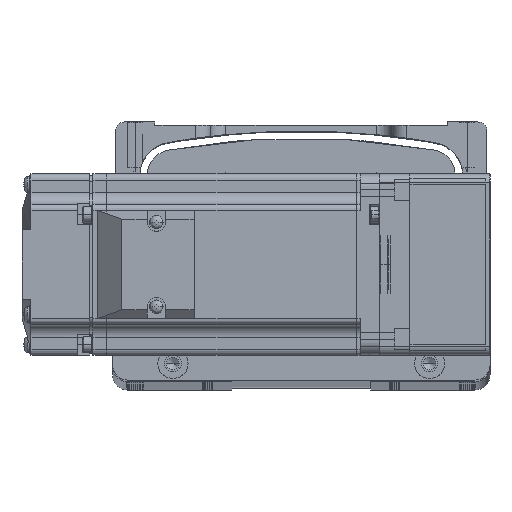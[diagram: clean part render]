
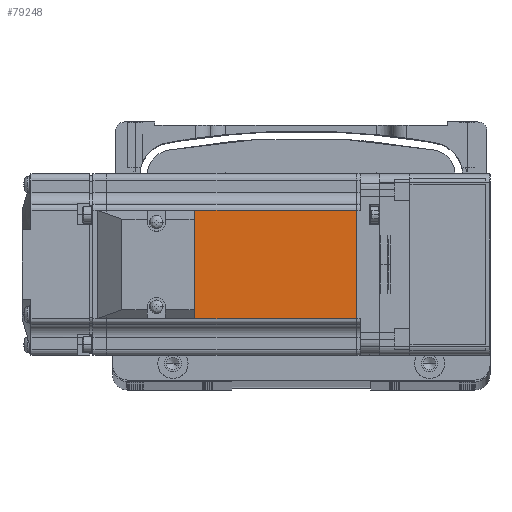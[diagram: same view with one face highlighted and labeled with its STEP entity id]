
A CAD part, top view. The second image highlights one B-rep face of the part: STEP entity #79248.
In plain terms, the highlighted planar face has unit normal (0, 0, 1) as drawn and (0, 1, 0) by its records, which use the part's own axes.
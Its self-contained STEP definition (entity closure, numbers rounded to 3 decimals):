
#5384 = FACE_OUTER_BOUND ( 'NONE', #30810, .T. ) ;
#7500 = CARTESIAN_POINT ( 'NONE',  ( -6.5, 30., 18. ) ) ;
#9994 = DIRECTION ( 'NONE',  ( -1., 0., 0. ) ) ;
#13826 = ORIENTED_EDGE ( 'NONE', *, *, #31340, .F. ) ;
#16545 = CARTESIAN_POINT ( 'NONE',  ( -6.5, 30., -18. ) ) ;
#19087 = CARTESIAN_POINT ( 'NONE',  ( -7.75, 30., 0. ) ) ;
#20343 = CARTESIAN_POINT ( 'NONE',  ( -90.45, 30., -18. ) ) ;
#20870 = AXIS2_PLACEMENT_3D ( 'NONE', #37672, #85295, #44541 ) ;
#22217 = ORIENTED_EDGE ( 'NONE', *, *, #63610, .T. ) ;
#22236 = EDGE_CURVE ( 'NONE', #37968, #87679, #36447, .T. ) ;
#25886 = DIRECTION ( 'NONE',  ( 0., 0., 1. ) ) ;
#30810 = EDGE_LOOP ( 'NONE', ( #13826, #22217, #50452, #59431 ) ) ;
#31340 = EDGE_CURVE ( 'NONE', #66483, #72847, #77546, .T. ) ;
#35199 = LINE ( 'NONE', #7500, #46906 ) ;
#36447 = LINE ( 'NONE', #77923, #72701 ) ;
#37672 = CARTESIAN_POINT ( 'NONE',  ( -6.5, 30., 25. ) ) ;
#37968 = VERTEX_POINT ( 'NONE', #20343 ) ;
#41669 = LINE ( 'NONE', #16545, #75799 ) ;
#44541 = DIRECTION ( 'NONE',  ( 0., 0., 1. ) ) ;
#46906 = VECTOR ( 'NONE', #55136, 1000. ) ;
#50452 = ORIENTED_EDGE ( 'NONE', *, *, #22236, .T. ) ;
#51122 = PLANE ( 'NONE',  #20870 ) ;
#55136 = DIRECTION ( 'NONE',  ( 1., 0., 0. ) ) ;
#59431 = ORIENTED_EDGE ( 'NONE', *, *, #70897, .T. ) ;
#62063 = CARTESIAN_POINT ( 'NONE',  ( -7.75, 30., -18. ) ) ;
#63610 = EDGE_CURVE ( 'NONE', #66483, #37968, #41669, .T. ) ;
#66483 = VERTEX_POINT ( 'NONE', #62063 ) ;
#70779 = DIRECTION ( 'NONE',  ( 0., 0., 1. ) ) ;
#70897 = EDGE_CURVE ( 'NONE', #87679, #72847, #35199, .T. ) ;
#71776 = CARTESIAN_POINT ( 'NONE',  ( -7.75, 30., 18. ) ) ;
#72701 = VECTOR ( 'NONE', #70779, 1000. ) ;
#72847 = VERTEX_POINT ( 'NONE', #71776 ) ;
#75385 = VECTOR ( 'NONE', #25886, 1000. ) ;
#75799 = VECTOR ( 'NONE', #9994, 1000. ) ;
#77546 = LINE ( 'NONE', #19087, #75385 ) ;
#77923 = CARTESIAN_POINT ( 'NONE',  ( -90.45, 30., 0. ) ) ;
#79248 = ADVANCED_FACE ( 'NONE', ( #5384 ), #51122, .T. ) ;
#85257 = CARTESIAN_POINT ( 'NONE',  ( -90.45, 30., 18. ) ) ;
#85295 = DIRECTION ( 'NONE',  ( 0., 1., 0. ) ) ;
#87679 = VERTEX_POINT ( 'NONE', #85257 ) ;
